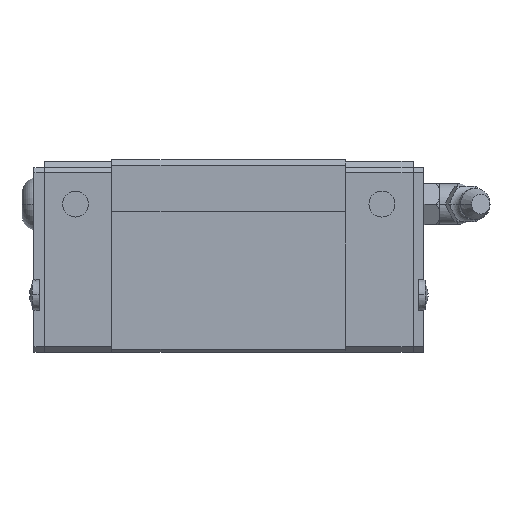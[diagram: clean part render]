
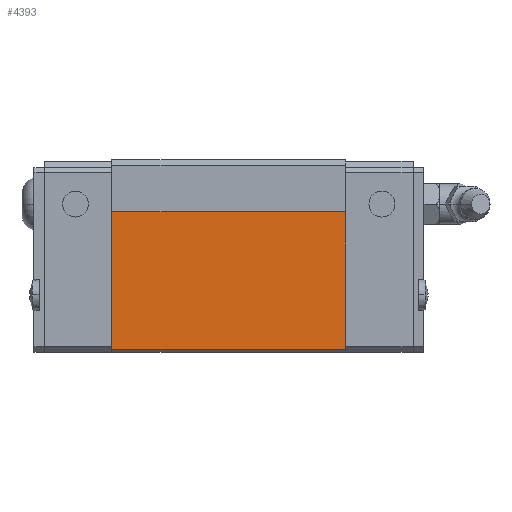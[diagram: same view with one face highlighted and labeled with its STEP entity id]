
A CAD part, left-side view. The second image highlights one B-rep face of the part: STEP entity #4393.
In plain terms, the highlighted planar face has unit normal (-1, 0, 0).
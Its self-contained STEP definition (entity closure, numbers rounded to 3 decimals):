
#2221=EDGE_CURVE('',#3151,#3045,#5911,.T.);
#2525=EDGE_CURVE('',#4445,#4841,#6251,.T.);
#3045=VERTEX_POINT('',#6828);
#3151=VERTEX_POINT('',#6948);
#3407=EDGE_CURVE('',#4445,#3045,#7227,.T.);
#4393=ADVANCED_FACE('',(#8301),#8302,.T.);
#4445=VERTEX_POINT('',#8359);
#4807=EDGE_CURVE('',#4841,#3151,#8756,.T.);
#4841=VERTEX_POINT('',#8791);
#5911=LINE('',#10203,#10204);
#6251=LINE('',#10751,#10752);
#6828=CARTESIAN_POINT('',(-34.5,60.0,38.0));
#6948=CARTESIAN_POINT('',(-34.5,60.0,11.5));
#7227=LINE('',#12380,#12381);
#8301=FACE_OUTER_BOUND('',#14233,.T.);
#8302=PLANE('',#14234);
#8359=CARTESIAN_POINT('',(-34.5,15.0,38.0));
#8756=LINE('',#15041,#15042);
#8791=CARTESIAN_POINT('',(-34.5,15.0,11.5));
#10203=CARTESIAN_POINT('',(-34.5,60.0,21.75));
#10204=VECTOR('',#16665,1.0);
#10751=CARTESIAN_POINT('',(-34.5,15.0,21.75));
#10752=VECTOR('',#17076,1.0);
#12380=CARTESIAN_POINT('',(-34.5,37.5,38.0));
#12381=VECTOR('',#18262,1.0);
#14233=EDGE_LOOP('',(#19314,#19315,#19316,#19317));
#14234=AXIS2_PLACEMENT_3D('',#19318,#19319,#19320);
#15041=CARTESIAN_POINT('',(-34.5,48.75,11.5));
#15042=VECTOR('',#19776,1.0);
#16665=DIRECTION('',(0.0,0.0,1.0));
#17076=DIRECTION('',(-0.0,-0.0,-1.0));
#18262=DIRECTION('',(0.0,1.0,0.0));
#19314=ORIENTED_EDGE('',*,*,#2221,.F.);
#19315=ORIENTED_EDGE('',*,*,#4807,.F.);
#19316=ORIENTED_EDGE('',*,*,#2525,.F.);
#19317=ORIENTED_EDGE('',*,*,#3407,.T.);
#19318=CARTESIAN_POINT('',(-34.5,37.5,14.0));
#19319=DIRECTION('',(-1.0,0.0,0.0));
#19320=DIRECTION('',(0.0,0.0,1.0));
#19776=DIRECTION('',(0.0,1.0,-0.0));
